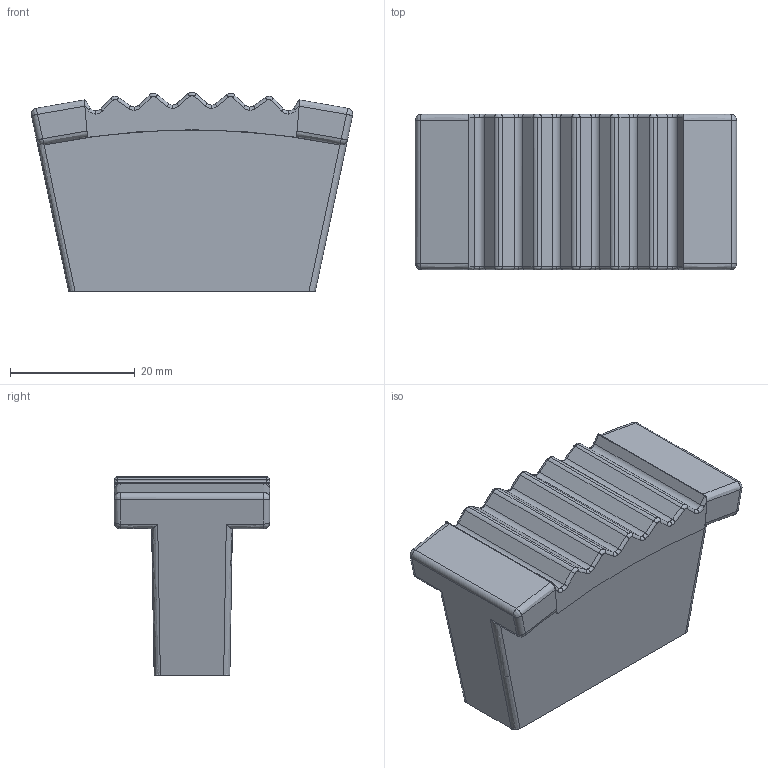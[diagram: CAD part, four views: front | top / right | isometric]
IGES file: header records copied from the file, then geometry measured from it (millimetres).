
Start section: C
Global section: file name: 092-52.igs; native system: By Siemens PLM Incorporated; preprocessor: XPlus GENERIC/IGES 16.0.42; author: Author; organization: Title; date: 20231210.153742; units: millimetre
Bounding box: 51.63 x 25 x 31.99 mm (x, y, z)
Surface area: 12095.9 mm2 (no closed solid volume)
Topology: 0 solids, 0 shells, 179 faces, 906 edges, 904 vertices
Faces by surface type: bspline 179
